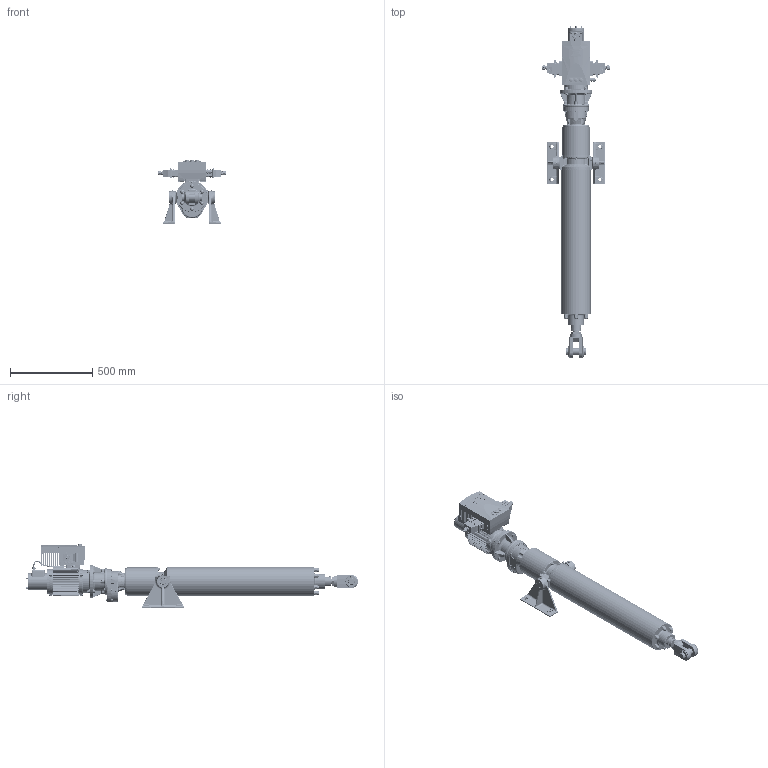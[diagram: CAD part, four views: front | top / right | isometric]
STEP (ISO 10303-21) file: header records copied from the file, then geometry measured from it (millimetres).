
FILE_DESCRIPTION( ( '153-599-4' ), '1' );
FILE_NAME( 'C:/daten/bearbeitung katalogbilder/RBs rendern/austausch pomplun/mit identnr/T1M7-RM-0600-160-250-0.stp', 'Unknown', ( 'Christoph Hahmann' ), ( 'RACO-ELEKTRO-MASCHINEN GmbH' ), 'PSStep 17.0.49', 'Solid Edge ST 7', ' ' );
FILE_SCHEMA( ( 'AUTOMOTIVE_DESIGN { 1 0 10303 214 1 1 1 1 }' ) );
Length unit declared in the file: millimetre
Products named in the file (15): Assem1; 03.01-07 kpl; 02.14-07-0600; 01.15-07-0600; Gehäuse A2- CAN; 02.01-07 kpl; 01.74-07; 01.01-07-gabelkkopf 133-277-52; Kabel zum Motor 90L4; 90L4-141-907-2 mit Adapter; 108-323-6 kpl; 03.65-07-2Füße; 04.01-05-7 170 Stahl; 157-713-1-3; BG2-155-450-6-kpl
Assembly tree (14 placements, depth 2):
  Assem1
    03.01-07 kpl
    02.14-07-0600
    01.15-07-0600
    Gehäuse A2- CAN
    02.01-07 kpl
    01.74-07
    01.01-07-gabelkkopf 133-277-52
    Kabel zum Motor 90L4
    90L4-141-907-2 mit Adapter
    108-323-6 kpl
    03.65-07-2Füße
    04.01-05-7 170 Stahl
    157-713-1-3
    BG2-155-450-6-kpl
Bounding box: 412.49 x 2016.5 x 386.55 mm (x, y, z)
Surface area: 3147505.3 mm2 (no closed solid volume)
Topology: 0 solids, 11731 shells, 11747 faces, 57274 edges, 55558 vertices
Faces by surface type: plane 5364, cylinder 2821, bspline 1384, cone 1096, torus 631, sphere 396, extrusion 49, revolution 6
Full cylindrical faces by diameter (mm): 1.6 x2, 2 x1, 2.6 x1, 3 x31, 3.141 x8, 3.242 x24, 4 x27, 4.134 x3, 4.188 x6, 4.4 x8, 4.5 x12, 4.773 x13, 4.917 x7, 5 x35, 5.3 x3, 5.5 x5, 5.7 x7, 6 x34, 6.47 x8, 6.6 x7, 6.647 x3, 6.8 x8, 7 x20, 7.5 x3, 7.6 x8, 8 x22, 8.15 x1, 8.2 x1, 8.376 x20, 8.4 x2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
Entity records: 939842 total; most frequent: CARTESIAN_POINT 435112, DIRECTION 85005, VERTEX_POINT 54903, ORIENTED_EDGE 54820, EDGE_CURVE 54820, AXIS2_PLACEMENT_3D 29566, VECTOR 25867, LINE 25818
